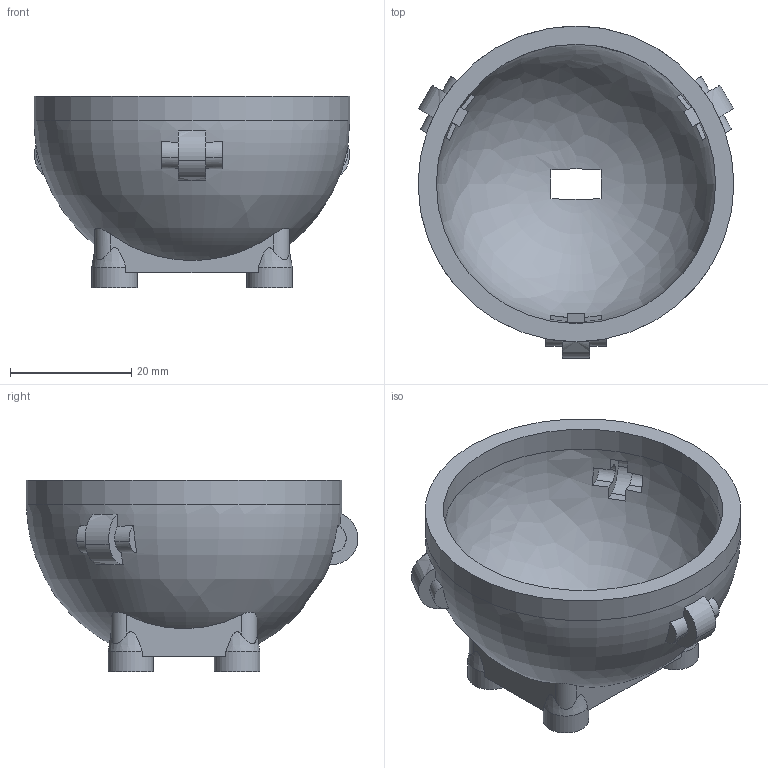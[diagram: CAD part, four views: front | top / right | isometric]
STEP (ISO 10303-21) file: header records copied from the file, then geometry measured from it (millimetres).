
FILE_DESCRIPTION(('Open CASCADE Model'),'2;1');
FILE_NAME('Open CASCADE Shape Model','2026-06-04T07:57:35',('Author'),( 'Open CASCADE'),'Open CASCADE STEP processor 7.6','Open CASCADE 7.6' ,'Unknown');
FILE_SCHEMA(('AP242_MANAGED_MODEL_BASED_3D_ENGINEERING_MIM_LF. {1 0 10303 442 1 1 4 }'));
Length unit declared in the file: millimetre
Products named in the file (1): Open CASCADE STEP translator 7.6 2
Bounding box: 52 x 54.65 x 31.6 mm (x, y, z)
Volume: 14528.3 mm3; surface area: 10806.1 mm2
Topology: 1 solids, 1 shells, 125 faces, 336 edges, 224 vertices
Faces by surface type: plane 61, extrusion 36, cylinder 18, bspline 4, cone 4, revolution 2
Full cylindrical faces by diameter (mm): 3.5 x4, 7.5 x4, 46 x1, 52 x1
Entity records: 19395 total; most frequent: CARTESIAN_POINT 13085, DIRECTION 1020, ORIENTED_EDGE 672, PCURVE 672, DEFINITIONAL_REPRESENTATION 672, VECTOR 506, LINE 470, B_SPLINE_CURVE_WITH_KNOTS 356
